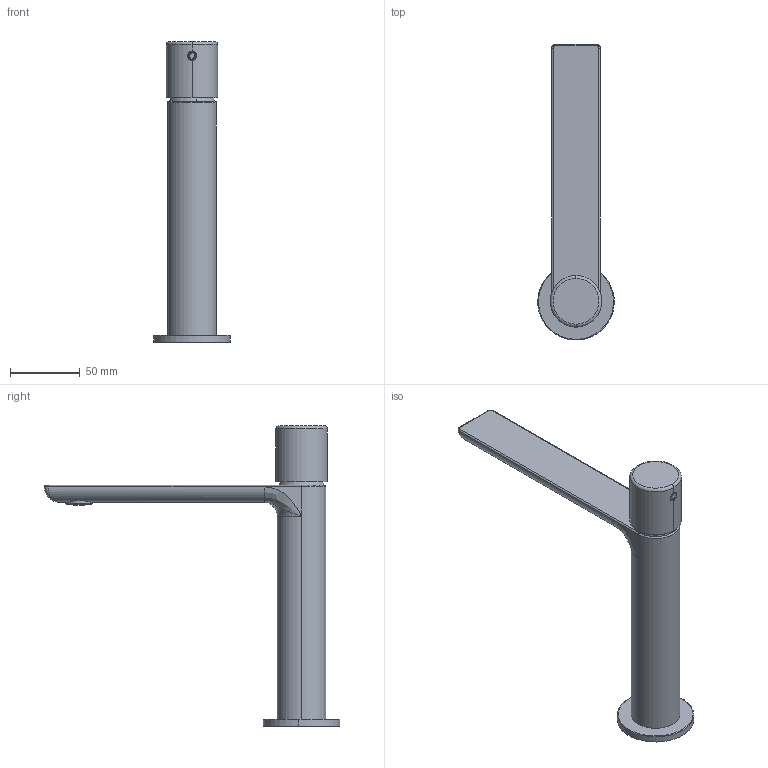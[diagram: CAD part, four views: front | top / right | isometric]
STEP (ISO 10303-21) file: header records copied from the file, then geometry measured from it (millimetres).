
FILE_DESCRIPTION (( 'STEP AP203' ), '1' );
FILE_NAME ('ZOE2.STEP', '2022-11-22T09:49:57', ( '' ), ( '' ), 'SwSTEP 2.0', 'SolidWorks 2021', '' );
FILE_SCHEMA (( 'CONFIG_CONTROL_DESIGN' ));
Length unit declared in the file: millimetre
Products named in the file (15): CART1; C47.00.0023.01; C11.14.0007; C13.00.0013; AS1035_00; C10.00.0030; C11.14.0009; BASETTA JAGO''; CORPO MEDIO ZANE''; ZOE2; CAPPUCCIO JAGO; CART2; GHIERA JAGO; C24.2582.00.0; C23.2581.00.0
Assembly tree (14 placements, depth 3):
  ZOE2
    CORPO MEDIO ZANE''
    C10.00.0030
      CART1
      CART2
    CAPPUCCIO JAGO
    GHIERA JAGO
    AS1035_00
      C23.2581.00.0
      C24.2582.00.0
      C11.14.0009
    C11.14.0007
    C47.00.0023.01
    BASETTA JAGO''
    C13.00.0013
Bounding box: 54.86 x 212.43 x 215.8 mm (x, y, z)
Volume: 164774.9 mm3; surface area: 80656.8 mm2
Topology: 11 solids, 13 shells, 343 faces, 784 edges, 489 vertices
Faces by surface type: cylinder 136, plane 134, cone 41, torus 16, bspline 16
Entity records: 12473 total; most frequent: CARTESIAN_POINT 3015, DIRECTION 1764, ORIENTED_EDGE 1548, EDGE_CURVE 776, AXIS2_PLACEMENT_3D 703, VERTEX_POINT 489, EDGE_LOOP 393, VECTOR 358
